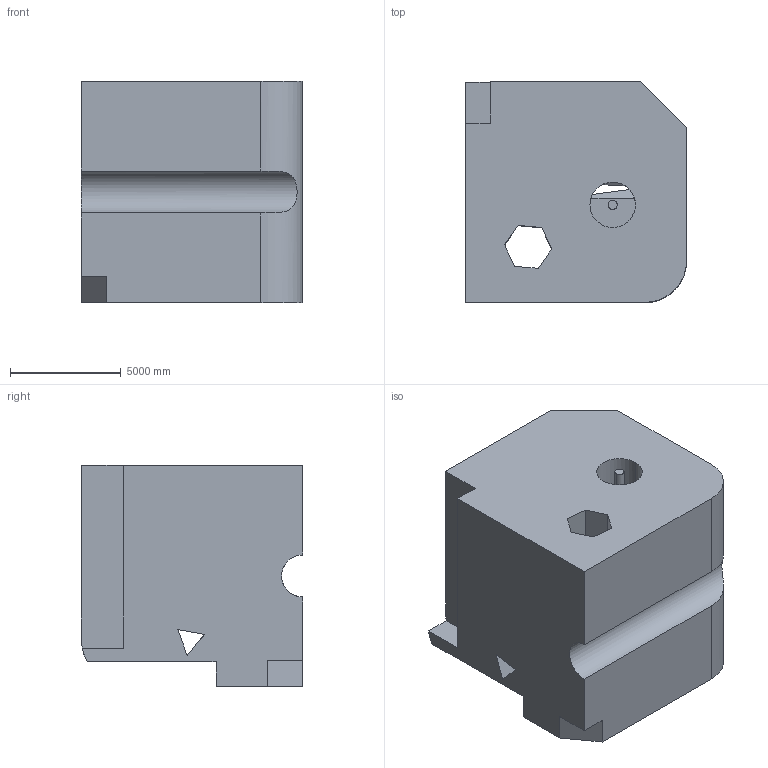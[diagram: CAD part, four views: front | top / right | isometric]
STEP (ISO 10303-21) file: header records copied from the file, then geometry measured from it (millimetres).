
FILE_DESCRIPTION (( 'STEP AP203' ), '1' );
FILE_NAME ('1999.STEP', '2022-08-23T10:26:47', ( 'user' ), ( '' ), 'SwSTEP 2.0', 'SolidWorks 2021', '' );
FILE_SCHEMA (( 'CONFIG_CONTROL_DESIGN' ));
Length unit declared in the file: centimetre
Products named in the file (1): 1999
Bounding box: 10000 x 10000 x 10000 mm (x, y, z)
Volume: 787757399920.6 mm3; surface area: 713992096.3 mm2
Topology: 1 solids, 1 shells, 38 faces, 108 edges, 72 vertices
Faces by surface type: plane 30, cylinder 8
Entity records: 1513 total; most frequent: CARTESIAN_POINT 441, ORIENTED_EDGE 216, DIRECTION 191, EDGE_CURVE 108, VECTOR 83, LINE 83, VERTEX_POINT 72, AXIS2_PLACEMENT_3D 54
